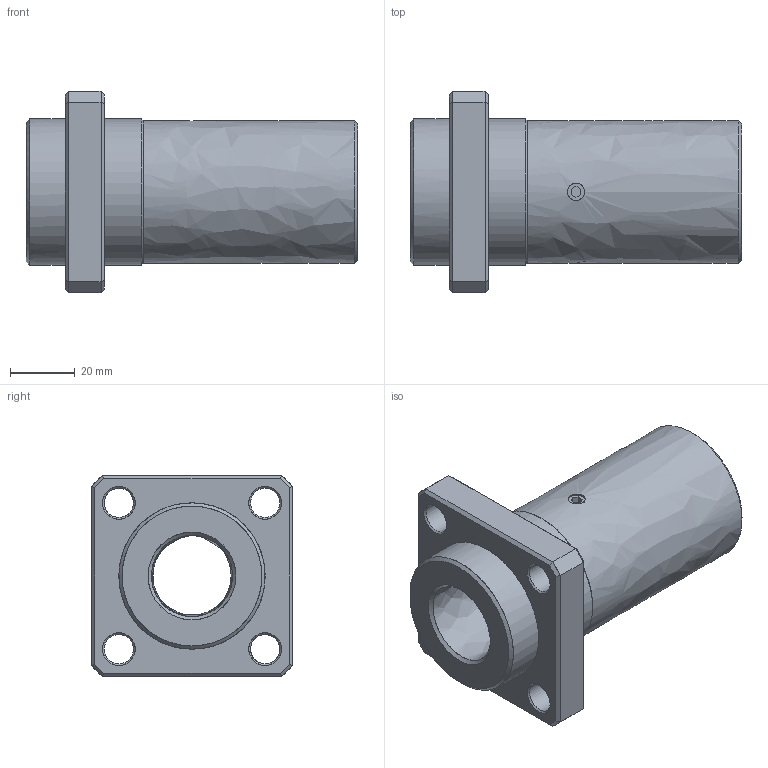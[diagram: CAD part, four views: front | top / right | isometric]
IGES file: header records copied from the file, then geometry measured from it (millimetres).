
Start section: Missler Software 3 rue Hermes, EUROPARC, 31520 Ramonville-Saint-Agne, France Tel   : +33 (0)5 61 00 03 00 Fax   : +33 (0)5 61 00 03 03 Email : sup.solid@topsolid.com
Global section: file name: \\192.168.1.1\share\s-4 技術開発\s-4-4_CAD\s-4-4-3_見直し済み\009 修正済み\LCF-B(済)\LCF-B_TOP\LCF-25BUU.igs; native system: TopSolid v611216 Missler Software; preprocessor: IGES preprocessor v100000; author: yu; organization: コダマコーポレーション株式会社, 10,7,13H22020; date: 220203.165529; units: millimetre
Bounding box: 102 x 62 x 62 mm (x, y, z)
Surface area: 30573.7 mm2 (no closed solid volume)
Topology: 0 solids, 0 shells, 62 faces, 693 edges, 682 vertices
Faces by surface type: bspline 62
